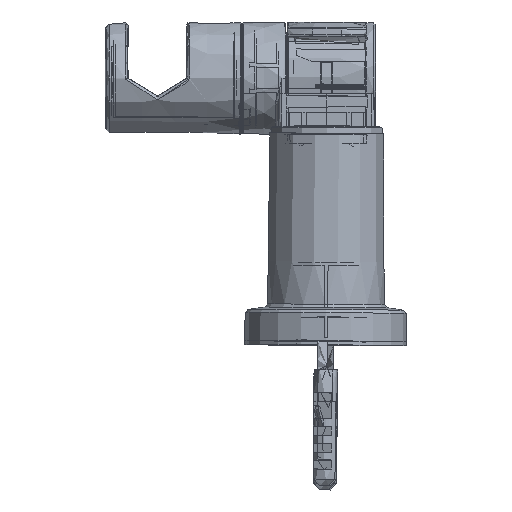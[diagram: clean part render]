
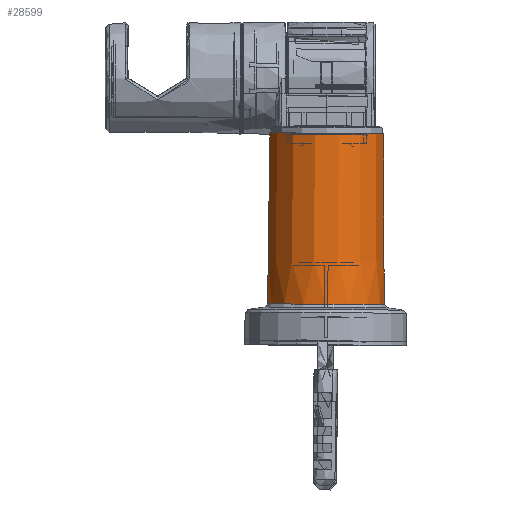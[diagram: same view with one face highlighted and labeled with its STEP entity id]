
A CAD part, top view. The second image highlights one B-rep face of the part: STEP entity #28599.
In plain terms, the highlighted conical face has half-angle 0.4 degrees and reference radius 18.087 mm.
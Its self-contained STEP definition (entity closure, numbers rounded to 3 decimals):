
#6173=B_SPLINE_CURVE_WITH_KNOTS('',3,(#87918,#87919,#87920,#87921,#87922,
#87923,#87924,#87925,#87926,#87927,#87928,#87929,#87930,#87931,#87932,#87933,
#87934,#87935,#87936,#87937,#87938,#87939,#87940,#87941,#87942,#87943,#87944,
#87945,#87946,#87947,#87948,#87949,#87950,#87951,#87952,#87953,#87954,#87955,
#87956,#87957,#87958,#87959,#87960,#87961,#87962,#87963,#87964,#87965,#87966,
#87967),.UNSPECIFIED.,.T.,.F.,(4,2,2,2,2,2,2,2,2,2,2,2,2,2,2,2,2,2,2,2,
2,2,2,2,4),(-7.041,-6.82,-6.599,-6.158,
-5.716,-5.495,-5.274,-5.053,
-4.832,-4.389,-3.948,-3.728,
-3.507,-3.289,-3.071,-2.634,
-2.194,-1.974,-1.753,-1.533,
-1.313,-0.873,-0.436,-0.218,
0.),.UNSPECIFIED.);
#6374=CONICAL_SURFACE('',#31091,18.087,0.4);
#6571=FACE_BOUND('',#9874,.T.);
#6572=FACE_BOUND('',#9875,.T.);
#8102=FACE_OUTER_BOUND('',#9873,.T.);
#9873=EDGE_LOOP('',(#25689,#25690));
#9874=EDGE_LOOP('',(#25691));
#9875=EDGE_LOOP('',(#25692));
#10809=CIRCLE('',#31089,18.273);
#10810=CIRCLE('',#31090,18.273);
#10811=CIRCLE('',#31092,17.9);
#13471=VERTEX_POINT('',#87910);
#13472=VERTEX_POINT('',#87911);
#13473=VERTEX_POINT('',#87915);
#13474=VERTEX_POINT('',#87917);
#17569=EDGE_CURVE('',#13471,#13472,#10809,.T.);
#17570=EDGE_CURVE('',#13472,#13471,#10810,.T.);
#17571=EDGE_CURVE('',#13473,#13473,#10811,.T.);
#17572=EDGE_CURVE('',#13474,#13474,#6173,.T.);
#25689=ORIENTED_EDGE('',*,*,#17569,.T.);
#25690=ORIENTED_EDGE('',*,*,#17570,.T.);
#25691=ORIENTED_EDGE('',*,*,#17571,.T.);
#25692=ORIENTED_EDGE('',*,*,#17572,.T.);
#28599=ADVANCED_FACE('',(#8102,#6571,#6572),#6374,.T.);
#31089=AXIS2_PLACEMENT_3D('',#87912,#38210,#38211);
#31090=AXIS2_PLACEMENT_3D('',#87913,#38212,#38213);
#31091=AXIS2_PLACEMENT_3D('',#87914,#38214,#38215);
#31092=AXIS2_PLACEMENT_3D('',#87916,#38216,#38217);
#38210=DIRECTION('center_axis',(1.,0.,0.));
#38211=DIRECTION('ref_axis',(0.,-1.,0.));
#38212=DIRECTION('center_axis',(1.,0.,0.));
#38213=DIRECTION('ref_axis',(0.,1.,0.));
#38214=DIRECTION('center_axis',(-1.,0.,0.));
#38215=DIRECTION('ref_axis',(0.,1.,0.));
#38216=DIRECTION('center_axis',(-1.,0.,0.));
#38217=DIRECTION('ref_axis',(0.,1.,0.));
#87910=CARTESIAN_POINT('',(11.536,-18.273,0.));
#87911=CARTESIAN_POINT('',(11.536,18.273,0.));
#87912=CARTESIAN_POINT('Origin',(11.536,0.,0.));
#87913=CARTESIAN_POINT('Origin',(11.536,0.,0.));
#87914=CARTESIAN_POINT('Origin',(38.268,0.,0.));
#87915=CARTESIAN_POINT('',(65.,-17.9,0.));
#87916=CARTESIAN_POINT('Origin',(65.,0.,0.));
#87917=CARTESIAN_POINT('',(39.037,-18.081,0.));
#87918=CARTESIAN_POINT('Ctrl Pts',(50.447,-14.075,-11.223));
#87919=CARTESIAN_POINT('Ctrl Pts',(49.711,-14.079,-11.226));
#87920=CARTESIAN_POINT('Ctrl Pts',(48.96,-14.141,-11.158));
#87921=CARTESIAN_POINT('Ctrl Pts',(47.482,-14.374,-10.874));
#87922=CARTESIAN_POINT('Ctrl Pts',(46.755,-14.544,-10.658));
#87923=CARTESIAN_POINT('Ctrl Pts',(44.675,-15.157,-9.811));
#87924=CARTESIAN_POINT('Ctrl Pts',(43.424,-15.7,-8.972));
#87925=CARTESIAN_POINT('Ctrl Pts',(41.431,-16.674,-7.035));
#87926=CARTESIAN_POINT('Ctrl Pts',(40.546,-17.177,-5.794));
#87927=CARTESIAN_POINT('Ctrl Pts',(39.647,-17.707,-3.71));
#87928=CARTESIAN_POINT('Ctrl Pts',(39.417,-17.847,-2.978));
#87929=CARTESIAN_POINT('Ctrl Pts',(39.112,-18.035,-1.492));
#87930=CARTESIAN_POINT('Ctrl Pts',(39.037,-18.081,-0.737));
#87931=CARTESIAN_POINT('Ctrl Pts',(39.037,-18.081,0.737));
#87932=CARTESIAN_POINT('Ctrl Pts',(39.112,-18.035,1.492));
#87933=CARTESIAN_POINT('Ctrl Pts',(39.417,-17.847,2.978));
#87934=CARTESIAN_POINT('Ctrl Pts',(39.647,-17.707,3.71));
#87935=CARTESIAN_POINT('Ctrl Pts',(40.546,-17.177,5.794));
#87936=CARTESIAN_POINT('Ctrl Pts',(41.431,-16.674,7.035));
#87937=CARTESIAN_POINT('Ctrl Pts',(43.424,-15.7,8.972));
#87938=CARTESIAN_POINT('Ctrl Pts',(44.675,-15.157,9.811));
#87939=CARTESIAN_POINT('Ctrl Pts',(46.755,-14.544,10.658));
#87940=CARTESIAN_POINT('Ctrl Pts',(47.482,-14.374,10.874));
#87941=CARTESIAN_POINT('Ctrl Pts',(48.96,-14.141,11.158));
#87942=CARTESIAN_POINT('Ctrl Pts',(49.711,-14.079,11.226));
#87943=CARTESIAN_POINT('Ctrl Pts',(51.174,-14.071,11.219));
#87944=CARTESIAN_POINT('Ctrl Pts',(51.917,-14.124,11.146));
#87945=CARTESIAN_POINT('Ctrl Pts',(53.38,-14.336,10.855));
#87946=CARTESIAN_POINT('Ctrl Pts',(54.1,-14.495,10.637));
#87947=CARTESIAN_POINT('Ctrl Pts',(56.159,-15.077,9.786));
#87948=CARTESIAN_POINT('Ctrl Pts',(57.397,-15.6,8.949));
#87949=CARTESIAN_POINT('Ctrl Pts',(59.376,-16.545,7.018));
#87950=CARTESIAN_POINT('Ctrl Pts',(60.258,-17.037,5.778));
#87951=CARTESIAN_POINT('Ctrl Pts',(61.151,-17.556,3.698));
#87952=CARTESIAN_POINT('Ctrl Pts',(61.38,-17.694,2.968));
#87953=CARTESIAN_POINT('Ctrl Pts',(61.683,-17.877,1.486));
#87954=CARTESIAN_POINT('Ctrl Pts',(61.757,-17.923,0.734));
#87955=CARTESIAN_POINT('Ctrl Pts',(61.757,-17.923,-0.734));
#87956=CARTESIAN_POINT('Ctrl Pts',(61.683,-17.877,-1.486));
#87957=CARTESIAN_POINT('Ctrl Pts',(61.38,-17.694,-2.968));
#87958=CARTESIAN_POINT('Ctrl Pts',(61.151,-17.556,-3.698));
#87959=CARTESIAN_POINT('Ctrl Pts',(60.258,-17.037,-5.778));
#87960=CARTESIAN_POINT('Ctrl Pts',(59.376,-16.545,-7.018));
#87961=CARTESIAN_POINT('Ctrl Pts',(57.397,-15.6,-8.949));
#87962=CARTESIAN_POINT('Ctrl Pts',(56.159,-15.077,-9.786));
#87963=CARTESIAN_POINT('Ctrl Pts',(54.1,-14.495,-10.637));
#87964=CARTESIAN_POINT('Ctrl Pts',(53.38,-14.336,-10.855));
#87965=CARTESIAN_POINT('Ctrl Pts',(51.917,-14.124,-11.146));
#87966=CARTESIAN_POINT('Ctrl Pts',(51.174,-14.071,-11.219));
#87967=CARTESIAN_POINT('Ctrl Pts',(50.447,-14.075,-11.223));
